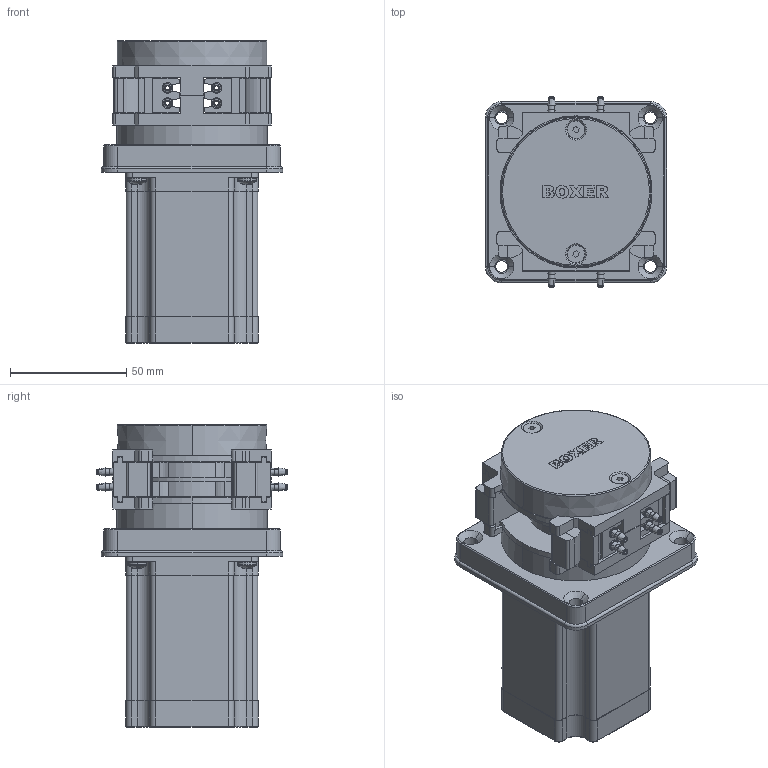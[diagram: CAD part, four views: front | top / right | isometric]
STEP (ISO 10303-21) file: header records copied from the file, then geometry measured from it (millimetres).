
FILE_DESCRIPTION (( 'STEP AP203' ), '1' );
FILE_NAME ('6341.100-1mm.STEP', '2018-10-30T22:06:27', ( '' ), ( '' ), 'SwSTEP 2.0', 'SolidWorks 2015', '' );
FILE_SCHEMA (( 'CONFIG_CONTROL_DESIGN' ));
Length unit declared in the file: millimetre
Products named in the file (1): 6341.100-1mm
Bounding box: 78 x 81.95 x 130.2 mm (x, y, z)
Surface area: 63223.3 mm2 (no closed solid volume)
Topology: 0 solids, 44 shells, 724 faces, 2393 edges, 1661 vertices
Faces by surface type: plane 352, cylinder 234, cone 66, torus 46, bspline 16, sphere 10
Entity records: 27371 total; most frequent: CARTESIAN_POINT 6087, DIRECTION 4643, ORIENTED_EDGE 3950, EDGE_CURVE 2393, VERTEX_POINT 1661, AXIS2_PLACEMENT_3D 1607, LINE 1429, VECTOR 1429
